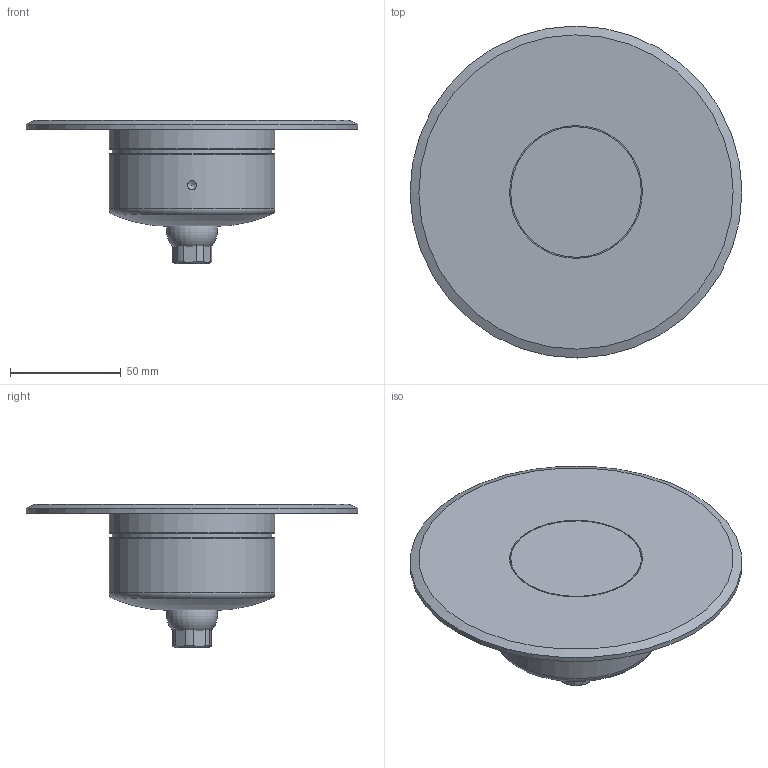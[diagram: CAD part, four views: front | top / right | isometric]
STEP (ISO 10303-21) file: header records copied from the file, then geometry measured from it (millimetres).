
FILE_DESCRIPTION(/* description */ ('Alibre Inc.'),/* implementation_level */ '2;1');
FILE_NAME(/* name */ 'export-F03EE8F3-F52E-4338-989D-5065292E07FE',/* time_stamp */ '2025-04-08T18:44:07+02:00',/* author */ (''),/* organization */ (''),/* preprocessor_version */ 'ST-DEVELOPER v17',/* originating_system */ 'Alibre',/* authorisation */ '');
FILE_SCHEMA (('CONFIG_CONTROL_DESIGN'));
Length unit declared in the file: millimetre
Bounding box: 150 x 150 x 64.7 mm (x, y, z)
Volume: 208651.3 mm3; surface area: 79587.3 mm2
Topology: 8 solids, 8 shells, 126 faces, 266 edges, 168 vertices
Faces by surface type: cylinder 50, plane 37, cone 32, torus 7
Full cylindrical faces by diameter (mm): 2 x3, 2.05 x3, 2.5 x3, 2.8 x3, 4 x2, 4.8 x3, 7 x1, 8.5 x1, 8.7 x1, 10.75 x1, 10.9 x1, 12 x3, 13 x1, 14 x1, 16.4 x1, 17.4 x1, 40 x1, 52 x2, 59 x1, 60 x1, 61 x1, 70 x2, 70.8 x1, 72 x1, 75 x2, 150 x1
Entity records: 3914 total; most frequent: CARTESIAN_POINT 611, DIRECTION 482, ORIENTED_EDGE 332, AXIS2_PLACEMENT_3D 251, FACE_BOUND 250, EDGE_LOOP 241, EDGE_CURVE 166, VERTEX_POINT 156
